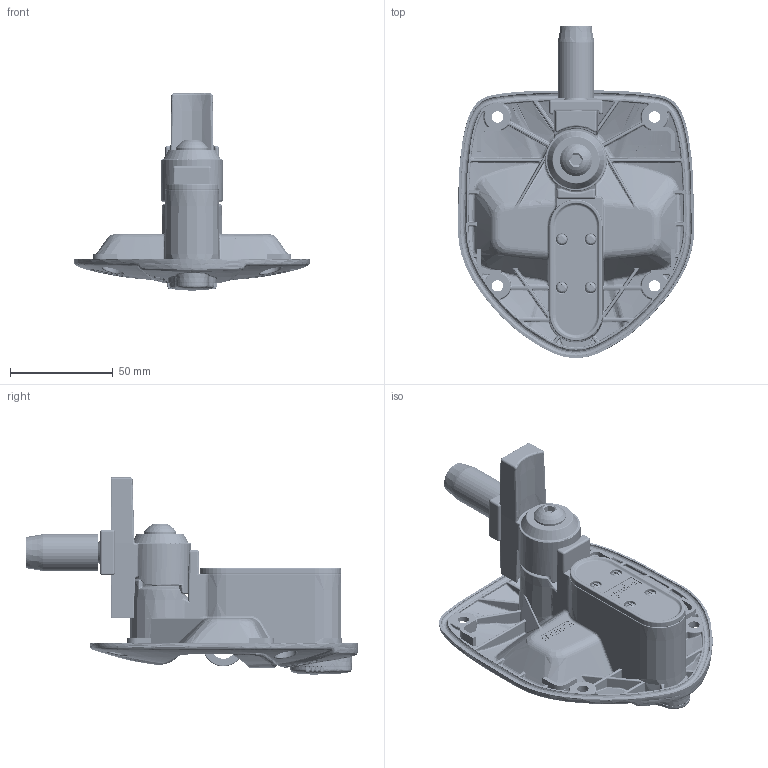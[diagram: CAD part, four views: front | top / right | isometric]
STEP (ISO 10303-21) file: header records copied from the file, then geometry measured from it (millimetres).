
FILE_DESCRIPTION((''),'2;1');
FILE_NAME('000_ASM','2026-03-13T17:17:22',('Administrator'),(''),'CREO PARAMETRIC BY PTC INC, 2019010','CREO PARAMETRIC BY PTC INC, 2019010','');
FILE_SCHEMA(('CONFIG_CONTROL_DESIGN','SHAPE_APPEARANCE_LAYERS_GROUPS'));
Products named in the file (20): 3011710049005; 3121710049004; T-TG1710-01_74; T-SS1710-01_85; T-YB1710-01_24; T-TG1710-03_19; T-LS1710-01_17; LS-M6X16_12; 000; 1710-1110-20_ASM_159_ASM; 000_ASM; 3061710081601; 3121710049005; LS-M3X8-GB_T823-2016_11; 50O00; 3169601349026; 3031710012002; 3169601349031; 3131710145004
Assembly tree (28 placements, depth 4):
  000_ASM
    3011710049005
    3121710049004
    000_ASM
      1710-1110-20_ASM_159_ASM
        T-TG1710-01_74
        T-SS1710-01_85
        T-YB1710-01_24
        T-TG1710-03_19
        T-LS1710-01_17
        LS-M6X16_12
        000
    3061710081601
    3121710049005
    LS-M3X8-GB_T823-2016_11  x4
    50O00
    3169601349026
    3031710012002
    3169601349031  x4
    3131710145004  x4
Bounding box: 114.71 x 161.15 x 95.75 mm (x, y, z)
Volume: 142114.8 mm3; surface area: 100195.5 mm2
Topology: 25 solids, 26 shells, 4666 faces, 11247 edges, 6639 vertices
Faces by surface type: bspline 1779, cylinder 950, plane 938, torus 374, cone 318, sphere 169, extrusion 138
Entity records: 305553 total; most frequent: CARTESIAN_POINT 150073, ORIENTED_EDGE 21792, PRESENTATION_STYLE_ASSIGNMENT 15253, STYLED_ITEM 15253, DIRECTION 15235, EDGE_CURVE 10896, CURVE_STYLE 10788, VERTEX_POINT 6441
